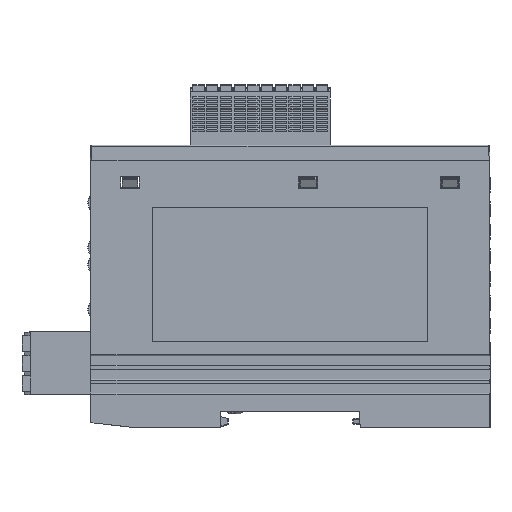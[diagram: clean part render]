
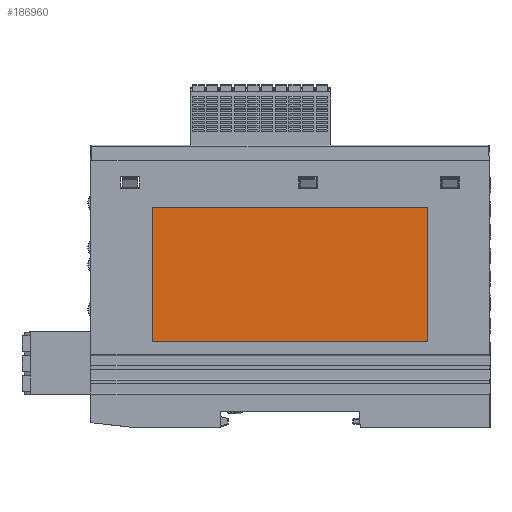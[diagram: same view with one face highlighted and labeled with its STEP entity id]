
A CAD part, left-side view. The second image highlights one B-rep face of the part: STEP entity #186960.
In plain terms, the highlighted planar face has unit normal (-1, 0, 0).
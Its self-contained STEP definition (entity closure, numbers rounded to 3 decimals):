
#61424=DIRECTION('',(0.,1.,0.));
#61425=VECTOR('',#61424,70.);
#61426=CARTESIAN_POINT('',(-12.3,-35.,-46.));
#61427=LINE('',#61426,#61425);
#61428=DIRECTION('',(0.,0.,1.));
#61429=VECTOR('',#61428,34.);
#61430=CARTESIAN_POINT('',(-12.3,35.,-46.));
#61431=LINE('',#61430,#61429);
#61432=DIRECTION('',(0.,-1.,0.));
#61433=VECTOR('',#61432,70.);
#61434=CARTESIAN_POINT('',(-12.3,35.,-12.));
#61435=LINE('',#61434,#61433);
#61436=DIRECTION('',(0.,0.,-1.));
#61437=VECTOR('',#61436,34.);
#61438=CARTESIAN_POINT('',(-12.3,-35.,-12.));
#61439=LINE('',#61438,#61437);
#85926=CARTESIAN_POINT('',(-12.3,35.,-46.));
#85927=VERTEX_POINT('',#85926);
#85928=CARTESIAN_POINT('',(-12.3,-35.,-46.));
#85929=VERTEX_POINT('',#85928);
#85930=CARTESIAN_POINT('',(-12.3,35.,-12.));
#85931=VERTEX_POINT('',#85930);
#85932=CARTESIAN_POINT('',(-12.3,-35.,-12.));
#85933=VERTEX_POINT('',#85932);
#186949=CARTESIAN_POINT('',(-12.3,0.,0.));
#186950=DIRECTION('',(-1.,0.,0.));
#186951=DIRECTION('',(0.,0.,1.));
#186952=AXIS2_PLACEMENT_3D('',#186949,#186950,#186951);
#186953=PLANE('',#186952);
#186954=ORIENTED_EDGE('',*,*,#186888,.T.);
#186955=ORIENTED_EDGE('',*,*,#186904,.T.);
#186956=ORIENTED_EDGE('',*,*,#186930,.T.);
#186957=ORIENTED_EDGE('',*,*,#186943,.T.);
#186958=EDGE_LOOP('',(#186954,#186955,#186956,#186957));
#186959=FACE_OUTER_BOUND('',#186958,.F.);
#186960=ADVANCED_FACE('',(#186959),#186953,.T.);
#186888=EDGE_CURVE('',#85929,#85927,#61427,.T.);
#186904=EDGE_CURVE('',#85927,#85931,#61431,.T.);
#186930=EDGE_CURVE('',#85931,#85933,#61435,.T.);
#186943=EDGE_CURVE('',#85933,#85929,#61439,.T.);
